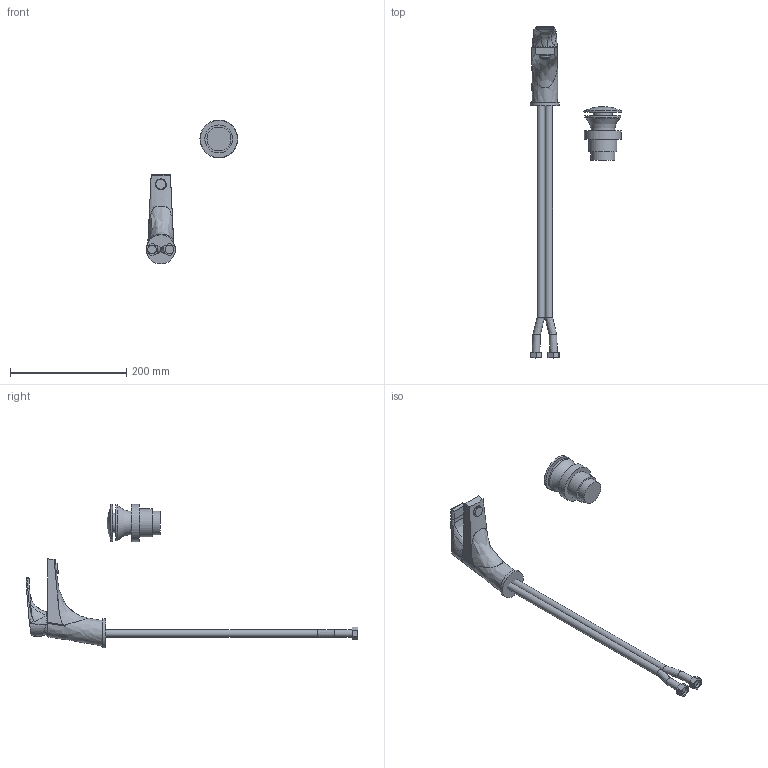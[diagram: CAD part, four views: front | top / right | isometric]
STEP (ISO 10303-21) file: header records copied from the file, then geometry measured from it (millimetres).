
FILE_DESCRIPTION(/* description */ ('SIGMA Bateria umywalkowa stojąca ze spustem click-clack'),/* implementation_level */ '2;1');
FILE_NAME(/* name */ 'C:\Nextcloud\02_biblioteki_cad\Valvex\Projekt\PROJECTS\Eksport\ETAP 4\2456100\2456100.stp',/* time_stamp */ '2021-08-09T10:49:37+02:00',/* author */ ('Cadventure'),/* organization */ (''),/* preprocessor_version */ 'ST-DEVELOPER v18.1',/* originating_system */ 'Autodesk Inventor 2020',/* authorisation */ '');
FILE_SCHEMA (('AUTOMOTIVE_DESIGN { 1 0 10303 214 3 1 1 }'));
Length unit declared in the file: millimetre
Products named in the file (1): 2456100
Bounding box: 157.25 x 569.96 x 247.25 mm (x, y, z)
Volume: 598183.5 mm3; surface area: 104477.3 mm2
Topology: 5 solids, 5 shells, 84 faces, 208 edges, 144 vertices
Faces by surface type: plane 36, bspline 28, cylinder 16, sphere 2, torus 2
Full cylindrical faces by diameter (mm): 8 x1, 13 x2, 15 x2, 33 x1, 41 x1, 48 x1, 50 x1, 62 x1, 64 x1
Entity records: 4041 total; most frequent: CARTESIAN_POINT 2018, ORIENTED_EDGE 410, DIRECTION 347, EDGE_CURVE 205, VERTEX_POINT 144, AXIS2_PLACEMENT_3D 144, EDGE_LOOP 97, FACE_OUTER_BOUND 84
